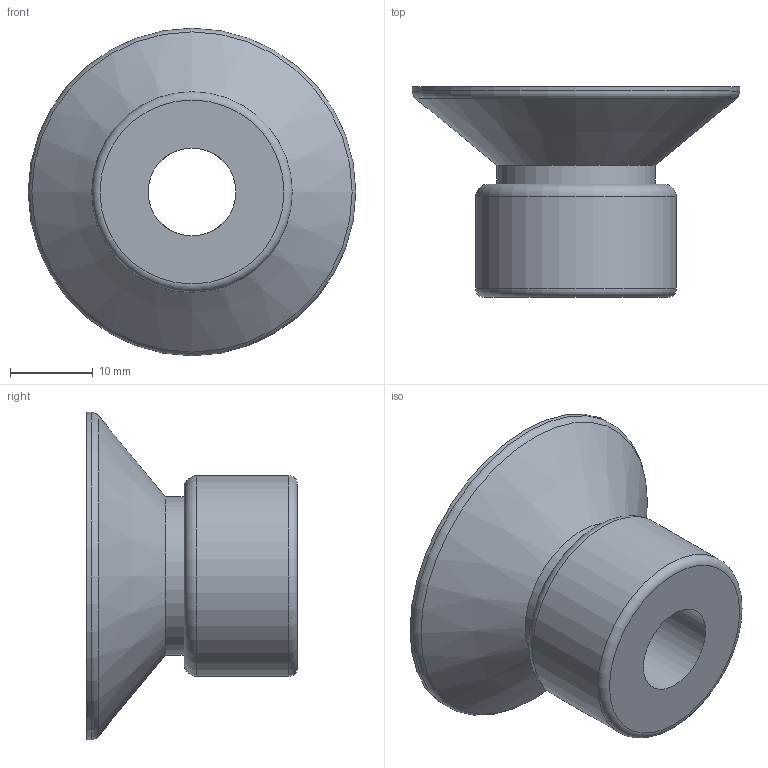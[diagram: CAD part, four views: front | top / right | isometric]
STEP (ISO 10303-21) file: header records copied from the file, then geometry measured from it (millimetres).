
FILE_DESCRIPTION (( 'STEP AP214' ), '1' );
FILE_NAME ('10F.040.100.STEP', '2026-06-01T19:06:13', ( '' ), ( '' ), 'SwSTEP 2.0', 'SolidWorks 2025', '' );
FILE_SCHEMA (( 'AUTOMOTIVE_DESIGN' ));
Length unit declared in the file: millimetre
Products named in the file (1): 10F.040.100
Bounding box: 39.7 x 25.5 x 39.7 mm (x, y, z)
Volume: 8765 mm3; surface area: 5372.4 mm2
Topology: 1 solids, 1 shells, 36 faces, 94 edges, 61 vertices
Faces by surface type: plane 27, cylinder 4, torus 3, cone 2
Full cylindrical faces by diameter (mm): 10.65 x1, 19.2 x1, 24.3 x1, 39.7 x1
Entity records: 1089 total; most frequent: CARTESIAN_POINT 215, DIRECTION 180, ORIENTED_EDGE 166, EDGE_CURVE 83, AXIS2_PLACEMENT_3D 72, VERTEX_POINT 59, EDGE_LOOP 48, FACE_OUTER_BOUND 43
